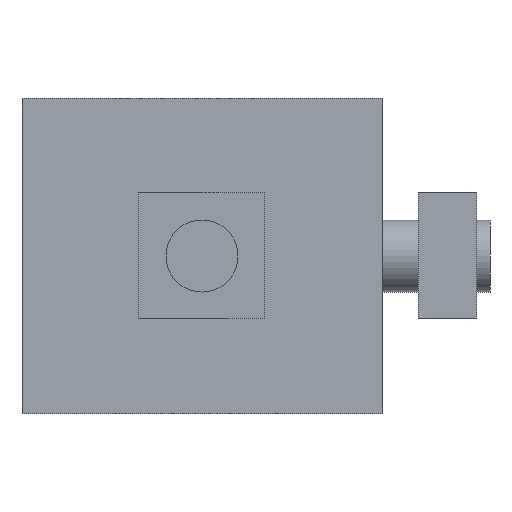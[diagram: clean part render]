
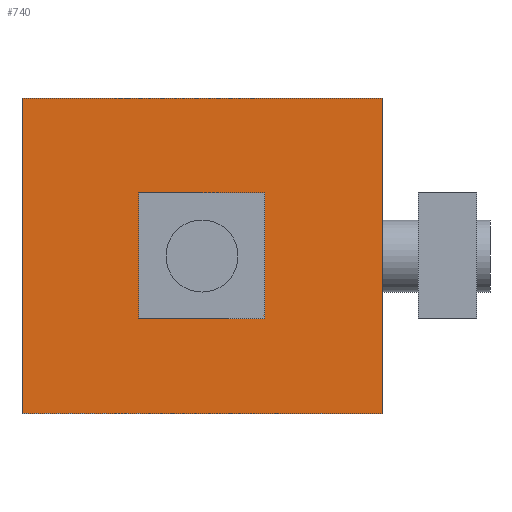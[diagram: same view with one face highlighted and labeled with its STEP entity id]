
A CAD part, left-side view. The second image highlights one B-rep face of the part: STEP entity #740.
In plain terms, the highlighted planar face has unit normal (-1, 0, 0).
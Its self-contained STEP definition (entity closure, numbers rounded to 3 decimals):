
#621=CARTESIAN_POINT('',(0.0,15.5,0.));
#622=VERTEX_POINT('',#621);
#623=CARTESIAN_POINT('',(0.0,20.,0.0));
#624=DIRECTION('',(1.0,0.0,0.0));
#625=DIRECTION('',(0.0,1.0,0.0));
#626=AXIS2_PLACEMENT_3D('',#623,#624,#625);
#627=CIRCLE('',#626,4.5);
#628=EDGE_CURVE('',#622,#622,#627,.T.);
#651=CARTESIAN_POINT('',(0.0,0.0,-17.5));
#652=VERTEX_POINT('',#651);
#659=CARTESIAN_POINT('',(0.0,40.,-17.5));
#660=VERTEX_POINT('',#659);
#661=CARTESIAN_POINT('',(0.0,40.,-17.5));
#662=DIRECTION('',(0.0,-1.0,0.0));
#663=VECTOR('',#662,40.);
#664=LINE('',#661,#663);
#665=EDGE_CURVE('',#660,#652,#664,.T.);
#707=CARTESIAN_POINT('',(0.0,0.0,0.0));
#708=DIRECTION('',(-1.0,0.0,0.0));
#709=DIRECTION('',(0.0,0.0,1.0));
#710=AXIS2_PLACEMENT_3D('',#707,#708,#709);
#711=PLANE('',#710);
#712=CARTESIAN_POINT('',(0.0,0.0,17.5));
#713=VERTEX_POINT('',#712);
#714=CARTESIAN_POINT('',(0.0,40.,17.5));
#715=VERTEX_POINT('',#714);
#716=CARTESIAN_POINT('',(0.0,0.0,17.5));
#717=DIRECTION('',(0.0,1.0,0.0));
#718=VECTOR('',#717,40.);
#719=LINE('',#716,#718);
#720=EDGE_CURVE('',#713,#715,#719,.T.);
#721=ORIENTED_EDGE('',*,*,#720,.T.);
#722=CARTESIAN_POINT('',(0.0,40.,17.5));
#723=DIRECTION('',(0.0,0.0,-1.0));
#724=VECTOR('',#723,35.);
#725=LINE('',#722,#724);
#726=EDGE_CURVE('',#715,#660,#725,.T.);
#727=ORIENTED_EDGE('',*,*,#726,.T.);
#728=ORIENTED_EDGE('',*,*,#665,.T.);
#729=CARTESIAN_POINT('',(0.0,0.0,17.5));
#730=DIRECTION('',(0.0,0.0,-1.0));
#731=VECTOR('',#730,35.);
#732=LINE('',#729,#731);
#733=EDGE_CURVE('',#713,#652,#732,.T.);
#734=ORIENTED_EDGE('',*,*,#733,.F.);
#735=EDGE_LOOP('',(#721,#727,#728,#734));
#736=FACE_OUTER_BOUND('',#735,.T.);
#737=ORIENTED_EDGE('',*,*,#628,.T.);
#738=EDGE_LOOP('',(#737));
#739=FACE_BOUND('',#738,.T.);
#740=ADVANCED_FACE('',(#736,#739),#711,.T.);
